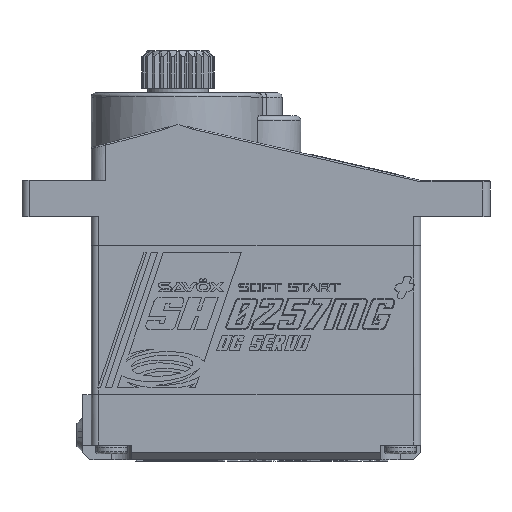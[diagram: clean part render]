
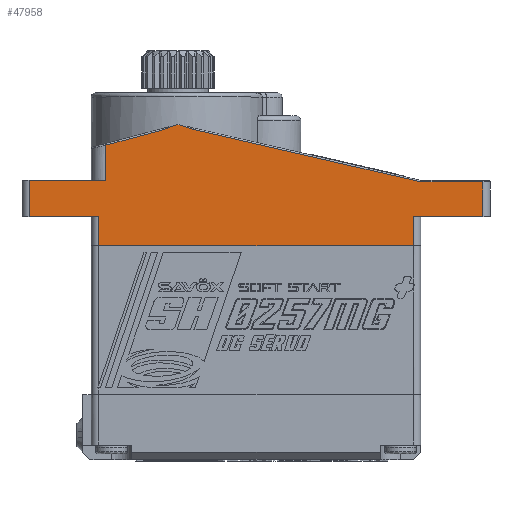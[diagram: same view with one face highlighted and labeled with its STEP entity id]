
A CAD part, top view. The second image highlights one B-rep face of the part: STEP entity #47958.
In plain terms, the highlighted planar face has unit normal (0, 0, 1).
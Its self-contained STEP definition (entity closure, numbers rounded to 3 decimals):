
#1388 = EDGE_CURVE ( 'NONE', #17888, #23186, #16031, .T. ) ;
#1480 = VECTOR ( 'NONE', #20337, 1000. ) ;
#2175 = DIRECTION ( 'NONE',  ( -1., 0., 0. ) ) ;
#2573 = VECTOR ( 'NONE', #2175, 1000. ) ;
#3420 = VECTOR ( 'NONE', #41518, 1000. ) ;
#3500 = VERTEX_POINT ( 'NONE', #8689 ) ;
#3806 = EDGE_CURVE ( 'NONE', #26862, #46075, #8619, .T. ) ;
#4368 = LINE ( 'NONE', #35433, #1480 ) ;
#4677 = DIRECTION ( 'NONE',  ( 0., -1., 0. ) ) ;
#5211 = ORIENTED_EDGE ( 'NONE', *, *, #45865, .F. ) ;
#5520 = CARTESIAN_POINT ( 'NONE',  ( 16.3, -16.82, 6. ) ) ;
#5630 = DIRECTION ( 'NONE',  ( 1., 0., 0. ) ) ;
#5807 = ORIENTED_EDGE ( 'NONE', *, *, #31283, .F. ) ;
#6150 = DIRECTION ( 'NONE',  ( 0., 0., -1. ) ) ;
#6563 = B_SPLINE_CURVE_WITH_KNOTS ( 'NONE', 3,
 ( #14188, #22639, #46210, #45459, #11128, #42384 ),
 .UNSPECIFIED., .F., .F.,
 ( 4, 2, 4 ),
 ( 0., 0.5, 1. ),
 .UNSPECIFIED. ) ;
#7253 = CARTESIAN_POINT ( 'NONE',  ( 1.068, 6.031, 6. ) ) ;
#8254 = VECTOR ( 'NONE', #40133, 1000. ) ;
#8355 = CARTESIAN_POINT ( 'NONE',  ( 16.3, -2.02, 6. ) ) ;
#8552 = CARTESIAN_POINT ( 'NONE',  ( 21.1, -2.02, 6. ) ) ;
#8619 = LINE ( 'NONE', #25022, #46894 ) ;
#8689 = CARTESIAN_POINT ( 'NONE',  ( 21.1, 0., 6. ) ) ;
#8768 = EDGE_CURVE ( 'NONE', #23186, #40557, #23698, .T. ) ;
#8946 = CARTESIAN_POINT ( 'NONE',  ( 16.766, 2.407, 6. ) ) ;
#8977 = VERTEX_POINT ( 'NONE', #30567 ) ;
#10465 = VERTEX_POINT ( 'NONE', #37467 ) ;
#10757 = LINE ( 'NONE', #26402, #3420 ) ;
#11128 = CARTESIAN_POINT ( 'NONE',  ( -0.176, 6.308, 6. ) ) ;
#11662 = VECTOR ( 'NONE', #37951, 1000. ) ;
#11909 = CARTESIAN_POINT ( 'NONE',  ( -5., 4.937, 6. ) ) ;
#12238 = LINE ( 'NONE', #8355, #8254 ) ;
#12540 = ORIENTED_EDGE ( 'NONE', *, *, #22177, .F. ) ;
#12750 = VERTEX_POINT ( 'NONE', #43959 ) ;
#12762 = ORIENTED_EDGE ( 'NONE', *, *, #19545, .F. ) ;
#12987 = DIRECTION ( 'NONE',  ( 0.974, -0.225, 0. ) ) ;
#13028 = VECTOR ( 'NONE', #36968, 1000. ) ;
#13093 = VERTEX_POINT ( 'NONE', #30842 ) ;
#13764 = CARTESIAN_POINT ( 'NONE',  ( -6., 0., 6. ) ) ;
#14188 = CARTESIAN_POINT ( 'NONE',  ( -1.065, 5.991, 6. ) ) ;
#15386 = VECTOR ( 'NONE', #27541, 1000. ) ;
#15561 = VERTEX_POINT ( 'NONE', #45212 ) ;
#15632 = ORIENTED_EDGE ( 'NONE', *, *, #30700, .F. ) ;
#15684 = VECTOR ( 'NONE', #16118, 1000. ) ;
#16031 = LINE ( 'NONE', #27553, #22244 ) ;
#16118 = DIRECTION ( 'NONE',  ( 0., -1., 0. ) ) ;
#16368 = LINE ( 'NONE', #5520, #15684 ) ;
#16583 = CARTESIAN_POINT ( 'NONE',  ( 1.068, 6.031, 6. ) ) ;
#17888 = VERTEX_POINT ( 'NONE', #47621 ) ;
#18388 = LINE ( 'NONE', #13764, #38085 ) ;
#19545 = EDGE_CURVE ( 'NONE', #8977, #15561, #32369, .T. ) ;
#19556 = ORIENTED_EDGE ( 'NONE', *, *, #3806, .F. ) ;
#19926 = CARTESIAN_POINT ( 'NONE',  ( 16.811, 2.401, 6. ) ) ;
#20337 = DIRECTION ( 'NONE',  ( 1., 0., 0. ) ) ;
#20360 = VERTEX_POINT ( 'NONE', #19926 ) ;
#20415 = EDGE_CURVE ( 'NONE', #32526, #13093, #12238, .T. ) ;
#21497 = CARTESIAN_POINT ( 'NONE',  ( 16.781, 2.403, 6. ) ) ;
#22177 = EDGE_CURVE ( 'NONE', #43944, #13093, #16368, .T. ) ;
#22244 = VECTOR ( 'NONE', #46769, 1000. ) ;
#22639 = CARTESIAN_POINT ( 'NONE',  ( -0.882, 6.04, 6. ) ) ;
#23076 = EDGE_CURVE ( 'NONE', #15561, #17888, #10757, .T. ) ;
#23186 = VERTEX_POINT ( 'NONE', #26922 ) ;
#23679 = ORIENTED_EDGE ( 'NONE', *, *, #47951, .F. ) ;
#23698 = LINE ( 'NONE', #11909, #15386 ) ;
#23959 = LINE ( 'NONE', #8552, #43142 ) ;
#25022 = CARTESIAN_POINT ( 'NONE',  ( 1.068, 6.031, 6. ) ) ;
#25700 = ORIENTED_EDGE ( 'NONE', *, *, #50740, .F. ) ;
#25868 = CARTESIAN_POINT ( 'NONE',  ( -5.5, -2.02, 6. ) ) ;
#25881 = ORIENTED_EDGE ( 'NONE', *, *, #20415, .T. ) ;
#26354 = EDGE_CURVE ( 'NONE', #3500, #43944, #18388, .T. ) ;
#26402 = CARTESIAN_POINT ( 'NONE',  ( -6., 2.501, 6. ) ) ;
#26862 = VERTEX_POINT ( 'NONE', #7253 ) ;
#26922 = CARTESIAN_POINT ( 'NONE',  ( -5., 4.937, 6. ) ) ;
#27541 = DIRECTION ( 'NONE',  ( 0.966, 0.259, 0. ) ) ;
#27553 = CARTESIAN_POINT ( 'NONE',  ( -5., -2.02, 6. ) ) ;
#27861 = CARTESIAN_POINT ( 'NONE',  ( 0.707, 6.13, 6. ) ) ;
#27946 = EDGE_CURVE ( 'NONE', #12750, #3500, #23959, .T. ) ;
#28512 = CARTESIAN_POINT ( 'NONE',  ( -10.3, -2.02, 6. ) ) ;
#28839 = CARTESIAN_POINT ( 'NONE',  ( 16.766, 2.407, 6. ) ) ;
#28917 =( BOUNDED_CURVE ( )  B_SPLINE_CURVE ( 3, ( #47353, #39134, #35288, #27861, #36031, #16583 ),
 .UNSPECIFIED., .F., .F. ) 
 B_SPLINE_CURVE_WITH_KNOTS ( ( 4, 2, 4 ),
 ( 0., 0.5, 1. ),
 .UNSPECIFIED. ) 
 CURVE ( )  GEOMETRIC_REPRESENTATION_ITEM ( )  RATIONAL_B_SPLINE_CURVE ( ( 1., 1., 1., 1., 1., 1. ) ) 
 REPRESENTATION_ITEM ( '' )  );
#29248 = FACE_OUTER_BOUND ( 'NONE', #42863, .T. ) ;
#29405 = EDGE_CURVE ( 'NONE', #40557, #10465, #6563, .T. ) ;
#29502 = PLANE ( 'NONE',  #41953 ) ;
#30567 = CARTESIAN_POINT ( 'NONE',  ( -10.3, 0., 6. ) ) ;
#30700 = EDGE_CURVE ( 'NONE', #20360, #12750, #4368, .T. ) ;
#30842 = CARTESIAN_POINT ( 'NONE',  ( 16.3, -2.02, 6. ) ) ;
#31283 = EDGE_CURVE ( 'NONE', #46075, #20360, #41970, .T. ) ;
#32369 = LINE ( 'NONE', #28512, #13028 ) ;
#32407 = CARTESIAN_POINT ( 'NONE',  ( -5.5, 0., 6. ) ) ;
#32526 = VERTEX_POINT ( 'NONE', #25868 ) ;
#33343 = LINE ( 'NONE', #47815, #11662 ) ;
#33594 = ORIENTED_EDGE ( 'NONE', *, *, #8768, .F. ) ;
#35288 = CARTESIAN_POINT ( 'NONE',  ( 0.352, 6.25, 6. ) ) ;
#35433 = CARTESIAN_POINT ( 'NONE',  ( -6., 2.401, 6. ) ) ;
#36031 = CARTESIAN_POINT ( 'NONE',  ( 0.885, 6.073, 6. ) ) ;
#36968 = DIRECTION ( 'NONE',  ( 0., 1., 0. ) ) ;
#37467 = CARTESIAN_POINT ( 'NONE',  ( 0., 6.38, 6. ) ) ;
#37831 = ORIENTED_EDGE ( 'NONE', *, *, #26354, .F. ) ;
#37951 = DIRECTION ( 'NONE',  ( 0., 1., 0. ) ) ;
#38085 = VECTOR ( 'NONE', #41186, 1000. ) ;
#39134 = CARTESIAN_POINT ( 'NONE',  ( 0.176, 6.315, 6. ) ) ;
#40133 = DIRECTION ( 'NONE',  ( 1., 0., 0. ) ) ;
#40460 = CARTESIAN_POINT ( 'NONE',  ( 16.811, 2.401, 6. ) ) ;
#40557 = VERTEX_POINT ( 'NONE', #47062 ) ;
#40715 = CARTESIAN_POINT ( 'NONE',  ( 16.796, 2.401, 6. ) ) ;
#40778 = CARTESIAN_POINT ( 'NONE',  ( 16.3, -16.82, 6. ) ) ;
#41186 = DIRECTION ( 'NONE',  ( -1., 0., 0. ) ) ;
#41518 = DIRECTION ( 'NONE',  ( 1., 0., 0. ) ) ;
#41953 = AXIS2_PLACEMENT_3D ( 'NONE', #40778, #6150, #5630 ) ;
#41970 =( BOUNDED_CURVE ( )  B_SPLINE_CURVE ( 3, ( #8946, #21497, #40715, #40460 ),
 .UNSPECIFIED., .F., .F. ) 
 B_SPLINE_CURVE_WITH_KNOTS ( ( 4, 4 ),
 ( 0., 1. ),
 .UNSPECIFIED. ) 
 CURVE ( )  GEOMETRIC_REPRESENTATION_ITEM ( )  RATIONAL_B_SPLINE_CURVE ( ( 1., 0.996, 0.996, 1. ) ) 
 REPRESENTATION_ITEM ( '' )  );
#42384 = CARTESIAN_POINT ( 'NONE',  ( 0., 6.38, 6. ) ) ;
#42863 = EDGE_LOOP ( 'NONE', ( #23679, #25881, #12540, #37831, #46057, #15632, #5807, #19556, #5211, #50345, #33594, #47076, #44678, #12762, #25700 ) ) ;
#43142 = VECTOR ( 'NONE', #4677, 1000. ) ;
#43944 = VERTEX_POINT ( 'NONE', #44555 ) ;
#43959 = CARTESIAN_POINT ( 'NONE',  ( 21.1, 2.401, 6. ) ) ;
#44555 = CARTESIAN_POINT ( 'NONE',  ( 16.3, 0., 6. ) ) ;
#44678 = ORIENTED_EDGE ( 'NONE', *, *, #23076, .F. ) ;
#44804 = CARTESIAN_POINT ( 'NONE',  ( -6., 0., 6. ) ) ;
#45212 = CARTESIAN_POINT ( 'NONE',  ( -10.3, 2.501, 6. ) ) ;
#45459 = CARTESIAN_POINT ( 'NONE',  ( -0.35, 6.237, 6. ) ) ;
#45865 = EDGE_CURVE ( 'NONE', #10465, #26862, #28917, .T. ) ;
#46057 = ORIENTED_EDGE ( 'NONE', *, *, #27946, .F. ) ;
#46075 = VERTEX_POINT ( 'NONE', #28839 ) ;
#46210 = CARTESIAN_POINT ( 'NONE',  ( -0.704, 6.103, 6. ) ) ;
#46769 = DIRECTION ( 'NONE',  ( 0., 1., 0. ) ) ;
#46894 = VECTOR ( 'NONE', #12987, 1000. ) ;
#47062 = CARTESIAN_POINT ( 'NONE',  ( -1.065, 5.991, 6. ) ) ;
#47076 = ORIENTED_EDGE ( 'NONE', *, *, #1388, .F. ) ;
#47353 = CARTESIAN_POINT ( 'NONE',  ( 0., 6.38, 6. ) ) ;
#47621 = CARTESIAN_POINT ( 'NONE',  ( -5., 2.501, 6. ) ) ;
#47815 = CARTESIAN_POINT ( 'NONE',  ( -5.5, -16.82, 6. ) ) ;
#47951 = EDGE_CURVE ( 'NONE', #32526, #48720, #33343, .T. ) ;
#47958 = ADVANCED_FACE ( 'NONE', ( #29248 ), #29502, .F. ) ;
#48720 = VERTEX_POINT ( 'NONE', #32407 ) ;
#49411 = LINE ( 'NONE', #44804, #2573 ) ;
#50345 = ORIENTED_EDGE ( 'NONE', *, *, #29405, .F. ) ;
#50740 = EDGE_CURVE ( 'NONE', #48720, #8977, #49411, .T. ) ;
